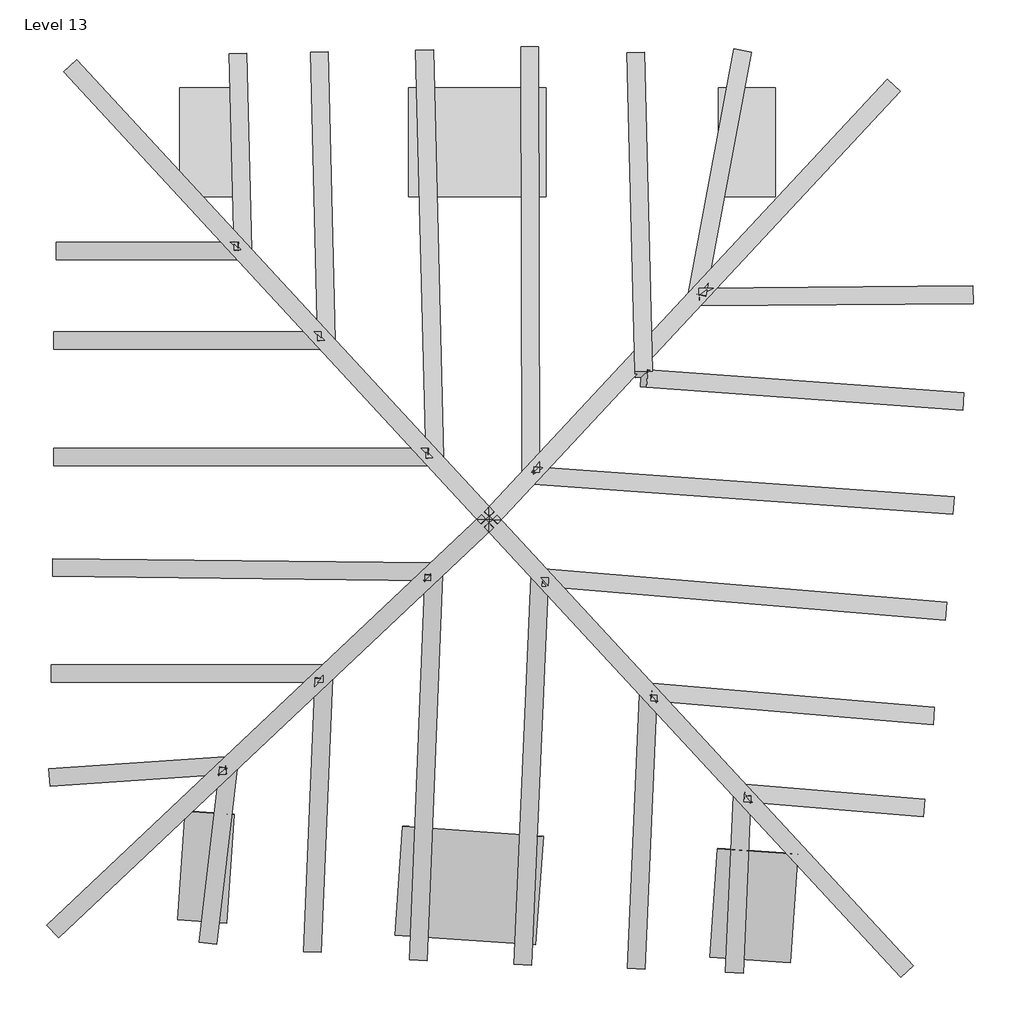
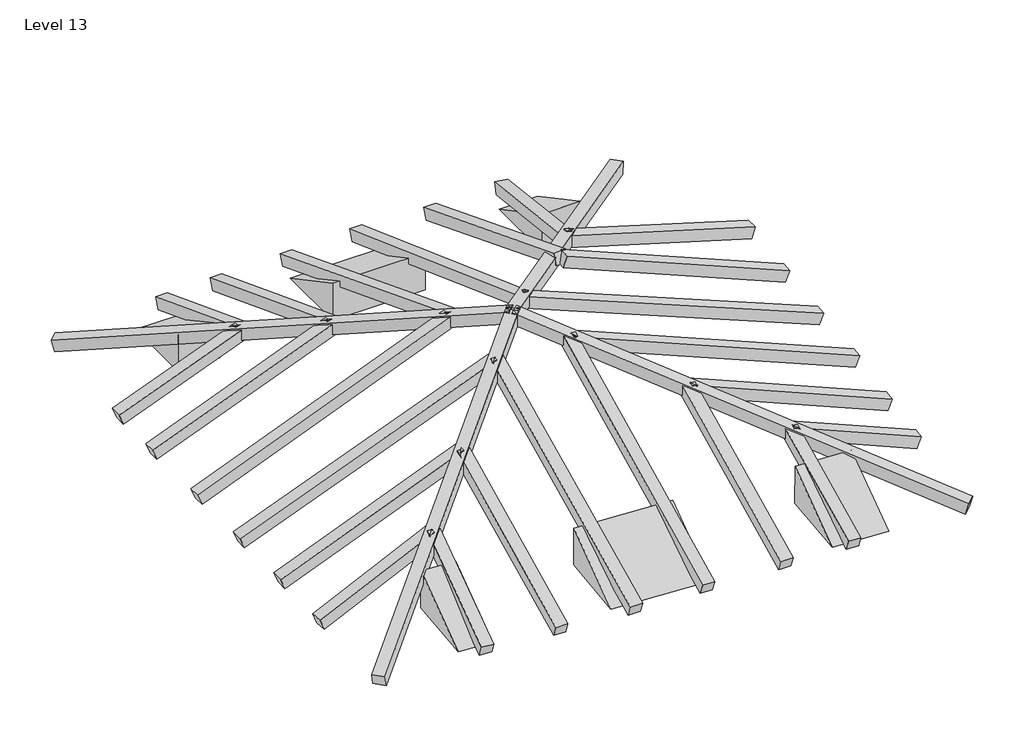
# One storey: 28 columns, 3 proxies.
"""IFC4 building model written with IfcOpenShell, lengths in millimetres."""

from ifc_helpers import new_model, si_unit, frame, origin, place, context, project, spatial, polyline, outline, extrude, faceted_brep, element, save

model = new_model("IFC4")

# Units and contexts
model_context = context("Model", 3, world=origin())
ifc_project = project(units=[si_unit("LENGTHUNIT", "METRE", prefix="MILLI")], contexts=[model_context])

# Site, building, storey
site = spatial("IfcSite", under=ifc_project)
building = spatial("IfcBuilding", under=site)
storey = spatial("IfcBuildingStorey", under=building, Name="Level 13", Elevation=5399.1516202)

# Proxies
placement = place(None, origin())
element("IfcBuildingElementProxy", 1, Name="Wall Sweeps", at=placement, inside=storey, context=model_context, shape_type="Brep", body=[
    faceted_brep([(415.9400583, 2237.1252215, 5729.1516202), (415.9400583, 2857.1252215, 5399.1516202), (415.9400583, 2237.1252215, 5399.1516202), (1195.9400583, 2237.1252215, 5729.1516202), (1195.9400583, 2237.1252215, 5399.1516202), (1195.9400583, 2857.1252215, 5399.1516202)], [[[0, 1, 2]], [[3, 4, 5]], [[1, 0, 3, 5]], [[2, 1, 5, 4]], [[0, 2, 4, 3]]]),
    faceted_brep([(2176.4072936, 2237.1252215, 5729.1516202), (2176.4072936, 2857.1252215, 5399.1516202), (2176.4072936, 2237.1252215, 5399.1516202), (2500.0995698, 2237.1252215, 5729.1516202), (2500.0995698, 2237.1252215, 5399.1516202), (2500.0995698, 2857.1252215, 5399.1516202)], [[[0, 1, 2]], [[3, 4, 5]], [[1, 0, 3, 5]], [[2, 1, 5, 4]], [[0, 2, 4, 3]]]),
    faceted_brep([(-886.8112271, 2237.1252215, 5729.1516202), (-886.8112271, 2857.1252215, 5399.1516202), (-886.8112271, 2237.1252215, 5399.1516202), (-534.0599417, 2237.1252215, 5729.1516202), (-534.0599417, 2237.1252215, 5399.1516202), (-534.0599417, 2857.1252215, 5399.1516202), (-867.6887998, 2237.1252215, 5399.1516202)], [[[0, 1, 2]], [[3, 4, 5]], [[1, 0, 3, 5]], [[2, 1, 5, 4, 6]], [[0, 2, 6, 4, 3]]]),
])
element("IfcBuildingElementProxy", 2, Name="Wall Sweeps", at=placement, inside=storey, context=model_context, shape_type="SweptSolid", body=[
    extrude(outline(polyline([(-1.727868, 290.0045235), (-619.9915011, 623.2462975), (0.0, 620.0), (-1.727868, 290.0045235)])), frame((1181.7907807, -1395.3735419, 6022.3979177), z_axis=(-0.997564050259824, 0.06975647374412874, 0.0), x_axis=(0.06975647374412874, 0.997564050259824, 0.0)), (0.0, 0.0, 1.0), 802.0313231),
    extrude(outline(polyline([(-1.7278681, 290.0045235), (-619.9915012, 623.2462975), (0.0, 620.0), (-1.7278681, 290.0045235)])), frame((-575.6477298, -1272.4814696, 6022.3979177), z_axis=(-0.997564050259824, 0.06975647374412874, 0.0), x_axis=(0.06975647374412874, 0.997564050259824, 0.0)), (0.0, 0.0, 1.0), 280.0),
    extrude(outline(polyline([(-1.7278681, 290.0045235), (-619.9915012, 623.2462975), (0.0, 620.0), (-1.7278681, 290.0045235)])), frame((2630.1390835, -1496.6519212, 6022.3979177), z_axis=(-0.9975640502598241, 0.06975647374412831, 0.0), x_axis=(0.06975647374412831, 0.9975640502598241, 0.0)), (0.0, 0.0, 1.0), 457.9080284),
])
element("IfcBuildingElementProxy", 3, Name="Wall Sweeps", at=placement, inside=storey, context=model_context, shape_type="SweptSolid", body=[
    extrude(outline(polyline([(2237.1252215, 5729.1516202), (2857.1252215, 5399.1516202), (2237.1252215, 5399.1516202), (2237.1252215, 5729.1516202)])), frame((2279.1527198, 0.0, 0.0), z_axis=(1.0, 0.0, 0.0), x_axis=(0.0, 1.0, 0.0)), (0.0, 0.0, 1.0), 220.94685),
])

# Columns
element("IfcColumn", 4, ObjectType="Poteau - Lamellé-collé - Pin du sud : 100mm x 100mm 2", at=placement, inside=storey, context=model_context, shape_type="SweptSolid", body=[
    extrude(outline(polyline([(0.0, -100.0), (0.0, 0.0), (3632.4929543, 0.0), (3632.4929543, -100.0), (0.0, -100.0)])), frame((846.2688761, 359.3275244, 6359.2279805), z_axis=(-0.1829797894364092, 0.19825114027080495, 0.9629199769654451), x_axis=(-0.6530884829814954, 0.7075947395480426, -0.2697871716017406)), (0.0, 0.0, 1.0), 100.0),
])
element("IfcColumn", 5, ObjectType="Poteau - Lamellé-collé - Pin du sud : 100mm x 100mm 2", at=placement, inside=storey, context=model_context, shape_type="SweptSolid", body=[
    extrude(outline(polyline([(0.0, -100.0), (0.0, 0.0), (3500.0, 0.0), (3499.9999999, -100.0), (0.0, -100.0)])), frame((827.7463608, 427.012925, 6359.3739793), z_axis=(0.19095954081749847, 0.2047790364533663, 0.9600000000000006), x_axis=(0.6547184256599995, 0.7020995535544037, -0.27999999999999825)), (0.0, 0.0, 1.0), 100.0),
])
element("IfcColumn", 6, ObjectType="Poteau - Lamellé-collé - Pin du sud : 100mm x 100mm 2", at=placement, inside=storey, context=model_context, shape_type="SweptSolid", body=[
    extrude(outline(polyline([(1e-07, -100.0), (0.0, 0.0), (3536.7977106, 0.0), (3536.7977107, -100.0000001), (1e-07, -100.0)])), frame((918.2407029, 376.2730541, 6359.3317349), z_axis=(-0.2016212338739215, -0.19006835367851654, 0.9608448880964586), x_axis=(-0.6991553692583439, -0.6590938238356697, -0.2770868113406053)), (0.0, 0.0, 1.0), 100.0),
])
element("IfcColumn", 7, ObjectType="Poteau - Lamellé-collé - Pin du sud : 100mm x 100mm 2", at=placement, inside=storey, context=model_context, shape_type="SweptSolid", body=[
    extrude(outline(polyline([(0.0, -100.0), (0.0, 0.0), (3620.7510346, 0.0), (3620.7510346, -100.0), (0.0, -100.0)])), frame((901.3705341, 447.0430366, 6359.2402583), z_axis=(0.1838222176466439, -0.1986639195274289, 0.9626744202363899), x_axis=(0.6538076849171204, -0.7065957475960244, -0.27066207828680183)), (0.0, 0.0, 1.0), 100.0),
])
element("IfcColumn", 8, ObjectType="Poteau - Lamellé-collé - Pin du sud : 100mm x 100mm 2", at=placement, inside=storey, context=model_context, shape_type="SweptSolid", body=[
    extrude(outline(polyline([(0.0, -100.0), (0.0, 0.0), (1745.6419479, 0.0), (1745.6419479, -100.0000001), (0.0, -100.0)])), frame((-100.5326824, 1386.8307581, 5978.3599415), z_axis=(-0.008265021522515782, 0.3424453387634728, 0.9395013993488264), x_axis=(-0.022668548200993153, 0.9392278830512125, -0.34254506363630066)), (0.0, 0.0, 1.0), 100.0),
])
element("IfcColumn", 9, ObjectType="Poteau - Lamellé-collé - Pin du sud : 100mm x 100mm 2", at=placement, inside=storey, context=model_context, shape_type="SweptSolid", body=[
    extrude(outline(polyline([(0.0, -100.0), (0.0, 0.0), (2291.9390339, 0.0), (2291.9390339, -100.0), (0.0, -100.0)])), frame((563.9973207, 708.8359158, 6225.2780365), z_axis=(-0.3684160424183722, 0.0, 0.9296610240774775), x_axis=(-0.9296610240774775, 0.0, -0.3684160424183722)), (0.0, 0.0, 1.0), 100.0),
])
element("IfcColumn", 10, ObjectType="Poteau - Lamellé-collé - Pin du sud : 100mm x 100mm 2", at=placement, inside=storey, context=model_context, shape_type="SweptSolid", body=[
    extrude(outline(polyline([(0.0, -100.0), (0.0, 0.0), (2313.5323448, 0.0), (2313.5323448, -100.0000001), (0.0, -100.0)])), frame((577.0590109, 56.2519715, 6236.18225), z_axis=(-0.36965720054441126, 0.004089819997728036, 0.9291592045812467), x_axis=(-0.9291023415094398, 0.010279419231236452, -0.36967982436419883)), (0.0, 0.0, 1.0), 100.0),
])
element("IfcColumn", 11, ObjectType="Poteau - Lamellé-collé - Pin du sud : 100mm x 100mm 2", at=placement, inside=storey, context=model_context, shape_type="SweptSolid", body=[
    extrude(outline(polyline([(0.0, -100.0), (0.0, 0.0), (1670.8506643, -1e-07), (1670.8506644, -100.0), (0.0, -100.0)])), frame((-13.6141833, -465.2035801, 5988.9810231), z_axis=(-0.015294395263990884, -0.36367105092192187, 0.9314018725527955), x_axis=(-0.03913604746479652, -0.9305792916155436, -0.36399251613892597)), (0.0, 0.0, 1.0), 100.0),
])
element("IfcColumn", 12, ObjectType="Poteau - Lamellé-collé - Pin du sud : 100mm x 100mm 2", at=placement, inside=storey, context=model_context, shape_type="SweptSolid", body=[
    extrude(outline(polyline([(0.0, -100.0), (0.0, 0.0), (2352.8287978, 1e-07), (2352.8287978, -100.0), (0.0, -100.0)])), frame((609.8211606, 122.5988883, 6236.0606078), z_axis=(-0.01464944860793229, -0.36321019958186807, 0.9315920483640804), x_axis=(-0.03754361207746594, -0.9308352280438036, -0.3635055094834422)), (0.0, 0.0, 1.0), 100.0),
])
element("IfcColumn", 13, ObjectType="Poteau - Lamellé-collé - Pin du sud : 100mm x 100mm 2", at=placement, inside=storey, context=model_context, shape_type="SweptSolid", body=[
    extrude(outline(polyline([(-1e-07, -100.0), (0.0, 0.0), (1670.0367939, 0.0), (1670.0367939, -100.0), (-1e-07, -100.0)])), frame((1830.773276, -560.2792339, 5985.6365693), z_axis=(-0.015905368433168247, -0.36183892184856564, 0.9321049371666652), x_axis=(-0.040933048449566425, -0.9312057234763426, -0.36218832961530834)), (0.0, 0.0, 1.0), 100.0),
])
element("IfcColumn", 14, ObjectType="Poteau - Lamellé-collé - Pin du sud : 100mm x 100mm 2", at=placement, inside=storey, context=model_context, shape_type="SweptSolid", body=[
    extrude(outline(polyline([(0.0, -100.0), (0.0, 0.0), (1720.288221, -1e-07), (1720.288221, -100.0000001), (0.0, -100.0)])), frame((1766.6862741, -524.8810387, 5985.4344579), z_axis=(0.3503782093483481, -0.029387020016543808, 0.9361471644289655), x_axis=(0.932871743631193, -0.0782420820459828, -0.3516084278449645)), (0.0, 0.0, 1.0), 100.0),
])
element("IfcColumn", 15, ObjectType="Poteau - Lamellé-collé - Pin du sud : 100mm x 100mm 2", at=placement, inside=storey, context=model_context, shape_type="SweptSolid", body=[
    extrude(outline(polyline([(0.0, -100.0), (0.0, 0.0), (2551.1296648, 0.0), (2551.1296648, -100.0), (0.0, -100.0)])), frame((1095.6624234, 706.7028435, 6259.761998), z_axis=(0.3437948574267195, -0.024689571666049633, 0.9387201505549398), x_axis=(0.9363088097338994, -0.06724086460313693, -0.34468025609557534)), (0.0, 0.0, 1.0), 100.0),
])
element("IfcColumn", 16, ObjectType="Poteau - Lamellé-collé - Pin du sud : 100mm x 100mm 2", at=placement, inside=storey, context=model_context, shape_type="SweptSolid", body=[
    extrude(outline(polyline([(0.0, -100.0000001), (0.0, 0.0), (1926.0935502, 0.0), (1926.0935502, -100.0), (0.0, -100.0000001)])), frame((1740.4613937, 1256.9974053, 6060.1422712), z_axis=(0.3519078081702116, -0.025272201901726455, 0.9356934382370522), x_axis=(0.9332898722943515, -0.06702406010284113, -0.35281410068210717)), (0.0, 0.0, 1.0), 100.0),
])
element("IfcColumn", 17, ObjectType="Poteau - Lamellé-collé - Pin du sud : 100mm x 100mm 2", at=placement, inside=storey, context=model_context, shape_type="SweptSolid", body=[
    extrude(outline(polyline([(0.0, -100.0), (0.0, 0.0), (1629.1573324, 0.0), (1629.1573324, -100.0), (0.0, -100.0)])), frame((2038.1028278, 1717.6403228, 5855.2182347), z_axis=(0.29195922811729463, 0.0025475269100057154, 0.9564273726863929), x_axis=(0.9563909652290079, 0.008345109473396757, -0.29197034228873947)), (0.0, 0.0, 1.0), 100.0),
])
element("IfcColumn", 18, ObjectType="Poteau - Lamellé-collé - Pin du sud : 100mm x 100mm 2", at=placement, inside=storey, context=model_context, shape_type="SweptSolid", body=[
    extrude(outline(polyline([(0.0, -99.9999999), (0.0, 0.0), (1488.8429347, 0.0), (1488.8429346, -99.9999999), (0.0, -99.9999999)])), frame((2001.049467, 1661.2840194, 5855.6600666), z_axis=(0.05888210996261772, 0.31401384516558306, 0.947590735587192), x_axis=(0.17464304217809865, 0.931358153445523, -0.3194867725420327)), (0.0, 0.0, 1.0), 100.0),
])
element("IfcColumn", 19, ObjectType="Poteau - Lamellé-collé - Pin du sud : 100mm x 100mm 2", at=placement, inside=storey, context=model_context, shape_type="SweptSolid", body=[
    extrude(outline(polyline([(0.0, -100.0), (0.0, 0.0), (1935.875127, -1e-07), (1935.875127, -100.0), (0.0, -100.0)])), frame((1704.3846483, 1208.8521545, 6057.4360872), z_axis=(-0.008759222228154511, 0.3495542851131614, 0.9368751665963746), x_axis=(-0.02346909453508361, 0.9365811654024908, -0.3496640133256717)), (0.0, 0.0, 1.0), 100.0),
])
element("IfcColumn", 20, ObjectType="Poteau - Lamellé-collé - Pin du sud : 100mm x 100mm 2", at=placement, inside=storey, context=model_context, shape_type="SweptSolid", body=[
    extrude(outline(polyline([(0.0, -100.0), (0.0, 0.0), (2574.0541568, 0.0), (2574.0541568, -100.0), (0.0, -100.0)])), frame((1059.3006888, 638.428589, 6259.7059253), z_axis=(-0.000599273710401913, 0.34161001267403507, 0.9398416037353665), x_axis=(-0.0016487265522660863, 0.9398401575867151, -0.3416105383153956)), (0.0, 0.0, 1.0), 100.0),
])
element("IfcColumn", 21, ObjectType="Poteau - Lamellé-collé - Pin du sud : 100mm x 100mm 2", at=placement, inside=storey, context=model_context, shape_type="SweptSolid", body=[
    extrude(outline(polyline([(0.0, -100.0), (0.0, 0.0), (2471.0203015, 0.0), (2471.0203014, -100.0), (0.0, -100.0)])), frame((516.0421076, 718.6372278, 6233.0986507), z_axis=(-0.008762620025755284, 0.34495010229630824, 0.9385801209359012), x_axis=(-0.02383466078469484, 0.938277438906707, -0.34506138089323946)), (0.0, 0.0, 1.0), 100.0),
])
element("IfcColumn", 22, ObjectType="Poteau - Lamellé-collé - Pin du sud : 100mm x 100mm 2", at=placement, inside=storey, context=model_context, shape_type="SweptSolid", body=[
    extrude(outline(polyline([(1e-07, -100.0000001), (0.0, 0.0), (1186.1310281, 0.0), (1186.1310281, -100.0), (1e-07, -100.0000001)])), frame((-575.3581136, 1901.4249027, 5782.1342187), z_axis=(-0.008677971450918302, 0.3386406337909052, 0.9408757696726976), x_axis=(-0.024102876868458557, 0.9405669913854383, -0.33875180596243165)), (0.0, 0.0, 1.0), 100.0),
])
element("IfcColumn", 23, ObjectType="Poteau - Lamellé-collé - Pin du sud : 100mm x 100mm 2", at=placement, inside=storey, context=model_context, shape_type="SweptSolid", body=[
    extrude(outline(polyline([(0.0, -100.0), (0.0, 0.0), (1110.0581112, 0.0), (1110.0581112, -100.0), (0.0, -100.0)])), frame((-517.3436626, 1879.8847308, 5778.5936254), z_axis=(-0.35844713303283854, 0.0, 0.9335500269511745), x_axis=(-0.9335500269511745, 0.0, -0.35844713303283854)), (0.0, 0.0, 1.0), 100.0),
])
element("IfcColumn", 24, ObjectType="Poteau - Lamellé-collé - Pin du sud : 100mm x 100mm 2", at=placement, inside=storey, context=model_context, shape_type="SweptSolid", body=[
    extrude(outline(polyline([(0.0, -100.0000001), (0.0, 0.0), (1078.1003179, 0.0), (1078.100318, -100.0000001), (0.0, -100.0000001)])), frame((-584.8245857, -1040.9797831, 5774.1407346), z_axis=(-0.36395984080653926, -0.02514460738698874, 0.9310751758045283), x_axis=(-0.9288611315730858, -0.06417149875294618, -0.36482737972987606)), (0.0, 0.0, 1.0), 100.0),
])
element("IfcColumn", 25, ObjectType="Poteau - Lamellé-collé - Pin du sud : 100mm x 100mm 2", at=placement, inside=storey, context=model_context, shape_type="SweptSolid", body=[
    extrude(outline(polyline([(0.0, -100.0), (0.0, 0.0), (1075.0723081, 0.0), (1075.0723081, -100.0000001), (0.0, -100.0)])), frame((-554.6570014, -980.1013136, 5774.160899), z_axis=(-0.04324345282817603, -0.3632902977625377, 0.9306718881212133), x_axis=(-0.11000388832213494, -0.9241478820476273, -0.3658549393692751)), (0.0, 0.0, 1.0), 100.0),
])
element("IfcColumn", 26, ObjectType="Poteau - Lamellé-collé - Pin du sud : 100mm x 100mm 2", at=placement, inside=storey, context=model_context, shape_type="SweptSolid", body=[
    extrude(outline(polyline([(0.0, -100.0), (0.0, 0.0), (1629.9324815, 0.0), (1629.9324815, -100.0), (0.0, -100.0)])), frame((-46.820855, 1370.3557688, 5972.9575927), z_axis=(-0.3633077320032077, 0.0, 0.9316691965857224), x_axis=(-0.9316691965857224, 0.0, -0.3633077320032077)), (0.0, 0.0, 1.0), 100.0),
])
element("IfcColumn", 27, ObjectType="Poteau - Lamellé-collé - Pin du sud : 100mm x 100mm 2", at=placement, inside=storey, context=model_context, shape_type="SweptSolid", body=[
    extrude(outline(polyline([(0.0, -100.0), (0.0, 0.0), (1092.8513953, 0.0), (1092.8513953, -100.0), (0.0, -100.0)])), frame((2296.217326, -1097.2284802, 5766.2179164), z_axis=(0.35162916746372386, -0.029491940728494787, 0.935674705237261), x_axis=(0.932400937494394, -0.07820259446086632, -0.3528637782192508)), (0.0, 0.0, 1.0), 100.0),
])
element("IfcColumn", 28, ObjectType="Poteau - Lamellé-collé - Pin du sud : 100mm x 100mm 2", at=placement, inside=storey, context=model_context, shape_type="SweptSolid", body=[
    extrude(outline(polyline([(-1e-07, -100.0), (0.0, 0.0), (1077.7872224, 1e-07), (1077.7872225, -99.9999999), (-1e-07, -100.0)])), frame((2364.3328579, -1133.2548265, 5764.7792303), z_axis=(-0.015651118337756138, -0.35605486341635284, 0.934333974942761), x_axis=(-0.04103093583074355, -0.9334326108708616, -0.35639868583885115)), (0.0, 0.0, 1.0), 100.0),
])
element("IfcColumn", 29, ObjectType="Poteau - Lamellé-collé - Pin du sud : 100mm x 100mm 2", at=placement, inside=storey, context=model_context, shape_type="SweptSolid", body=[
    extrude(outline(polyline([(0.0, -100.0), (0.0, 0.0), (2364.3415629, 1e-07), (2364.3415628, -100.0), (0.0, -100.0)])), frame((1212.6322092, 107.8682214, 6241.5716579), z_axis=(-0.015987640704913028, -0.36371057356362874, 0.9313747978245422), x_axis=(-0.040900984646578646, -0.9304762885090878, -0.3640617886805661)), (0.0, 0.0, 1.0), 100.0),
])
element("IfcColumn", 30, ObjectType="Poteau - Lamellé-collé - Pin du sud : 100mm x 100mm 2", at=placement, inside=storey, context=model_context, shape_type="SweptSolid", body=[
    extrude(outline(polyline([(0.0, -100.0), (0.0, 0.0), (2454.5895138, 0.0), (2454.5895138, -100.0), (0.0, -100.0)])), frame((1148.0178169, 127.3394088, 6235.0791434), z_axis=(0.3469366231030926, -0.029098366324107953, 0.9374370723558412), x_axis=(0.9341571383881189, -0.078349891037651, -0.3481547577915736)), (0.0, 0.0, 1.0), 100.0),
])
element("IfcColumn", 31, ObjectType="Poteau - Lamellé-collé - Pin du sud : 100mm x 100mm 2", at=placement, inside=storey, context=model_context, shape_type="SweptSolid", body=[
    extrude(outline(polyline([(0.0, -100.0), (0.0, 0.0), (1660.5904342, 0.0), (1660.5904342, -100.0), (0.0, -100.0)])), frame((-34.9266107, -520.9493055, 5993.4225321), z_axis=(-0.36885846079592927, 0.0, 0.9294855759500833), x_axis=(-0.9294855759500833, 0.0, -0.36885846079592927)), (0.0, 0.0, 1.0), 100.0),
])

save(model, "model.ifc")
